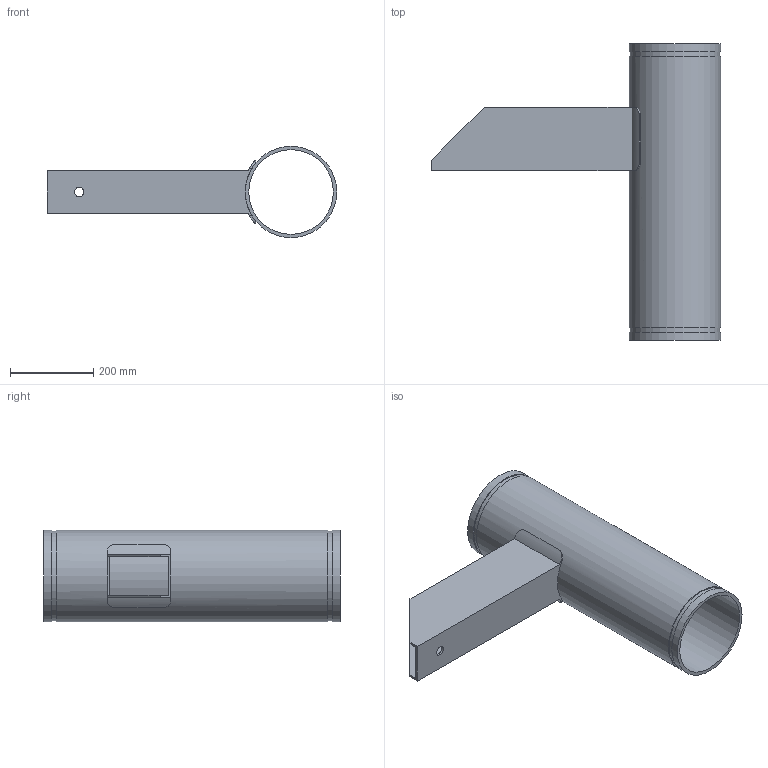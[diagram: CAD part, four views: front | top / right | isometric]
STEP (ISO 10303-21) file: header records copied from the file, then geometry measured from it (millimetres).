
FILE_DESCRIPTION(/* description */ ('VIC SS FLOOR MOUNTED RISER ANCHOR No A40S'),/* implementation_level */ '2;1');
FILE_NAME(/* name */ 'C:\Files for Export\A40 & A40S-STEP-SWX\STEP\Victaulic_SS-OGS_Riser Anchor_No A40S (OGS)\Victaulic_SS-OGS_Riser Anchor_No A40S (OGS)_8 (200).stp',/* time_stamp */ '2024-06-07T07:37:07+02:00',/* author */ ('kkamble'),/* organization */ ('Victaulic'),/* preprocessor_version */ 'ST-DEVELOPER v18.1',/* originating_system */ 'Autodesk Inventor 2020',/* authorisation */ '');
FILE_SCHEMA (('AUTOMOTIVE_DESIGN { 1 0 10303 214 3 1 1 }'));
Length unit declared in the file: inch
Products named in the file (1): A40S-08.0
Bounding box: 693.74 x 711.2 x 219.07 mm (x, y, z)
Volume: 4987077.7 mm3; surface area: 1374116.5 mm2
Topology: 1 solids, 1 shells, 34 faces, 94 edges, 66 vertices
Faces by surface type: plane 20, cylinder 14
Full cylindrical faces by diameter (mm): 22.225 x1, 202.692 x1, 214.401 x2, 219.075 x3
Entity records: 1319 total; most frequent: CARTESIAN_POINT 331, DIRECTION 192, ORIENTED_EDGE 188, EDGE_CURVE 94, AXIS2_PLACEMENT_3D 71, VERTEX_POINT 66, LINE 50, VECTOR 50
